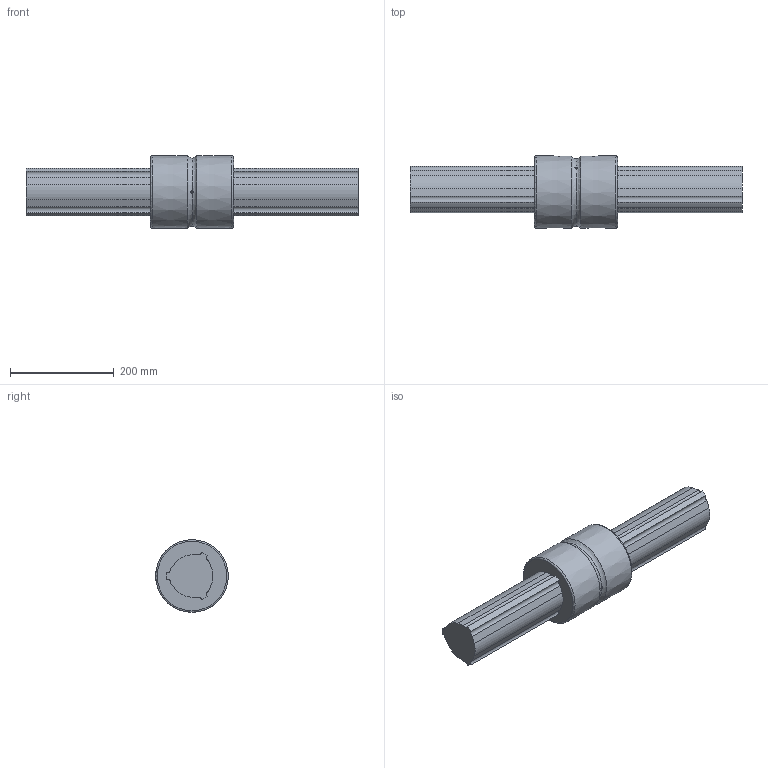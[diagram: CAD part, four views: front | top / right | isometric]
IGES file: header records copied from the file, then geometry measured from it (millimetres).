
Start section: Data from Parasolid IGES Translator 26.0.171, Copyright(c) 2006 Siemens PLM Software. All Rights Reserved.
Global section: file name: LBS100+640L(1602400).igs; native system: By Siemens PLM Incorporated; preprocessor: XPlus GENERIC/IGES 26.0.171; author: Noname; organization: Noname; date: 20240523.115849; units: millimetre
Bounding box: 640 x 140 x 140 mm (x, y, z)
Surface area: 337076.2 mm2 (no closed solid volume)
Topology: 0 solids, 0 shells, 63 faces, 344 edges, 336 vertices
Faces by surface type: revolution 41, extrusion 22
